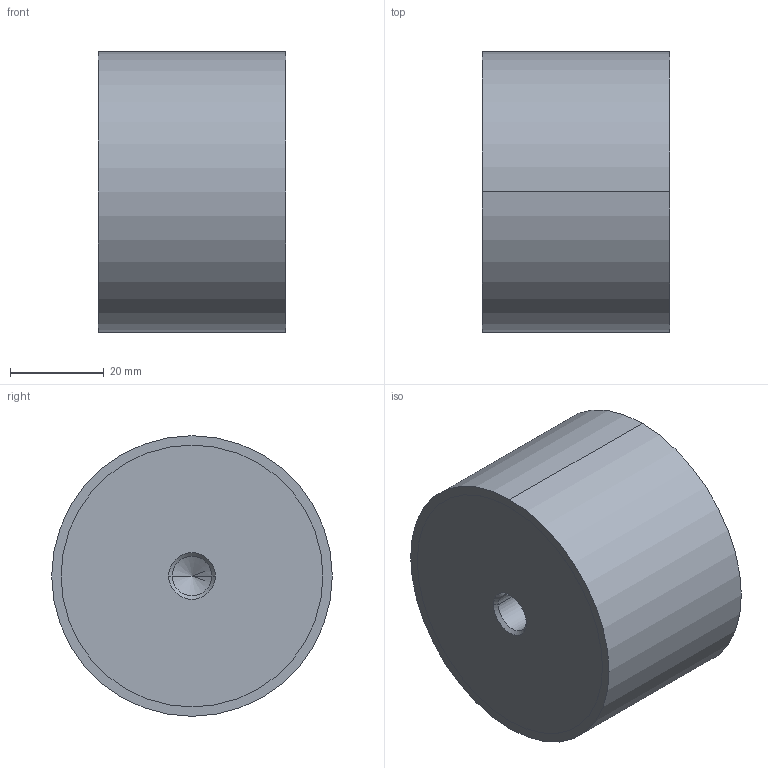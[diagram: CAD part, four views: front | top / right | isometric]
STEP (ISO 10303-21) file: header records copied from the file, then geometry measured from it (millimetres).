
FILE_DESCRIPTION (( 'STEP AP214' ), '1' );
FILE_NAME ('351-60-40-M10-EE-40.step', '2025-07-23T09:56:25', ( '' ), ( '' ), 'SwSTEP 2.0', 'SolidWorks 2022', '' );
FILE_SCHEMA (( 'AUTOMOTIVE_DESIGN' ));
Length unit declared in the file: millimetre
Products named in the file (1): 351-60-40-M10-EE-40
Bounding box: 40 x 60 x 60 mm (x, y, z)
Volume: 111673.7 mm3; surface area: 13790.4 mm2
Topology: 1 solids, 1 shells, 28 faces, 58 edges, 34 vertices
Faces by surface type: cylinder 14, cone 8, plane 6
Entity records: 844 total; most frequent: DIRECTION 144, CARTESIAN_POINT 117, ORIENTED_EDGE 108, AXIS2_PLACEMENT_3D 61, EDGE_CURVE 54, VERTEX_POINT 34, EDGE_LOOP 34, CIRCLE 32
